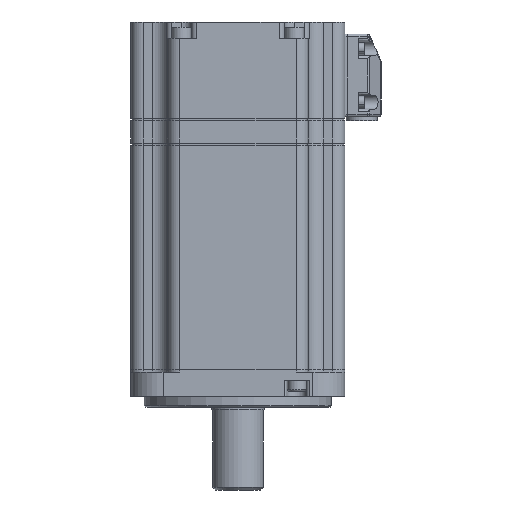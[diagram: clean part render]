
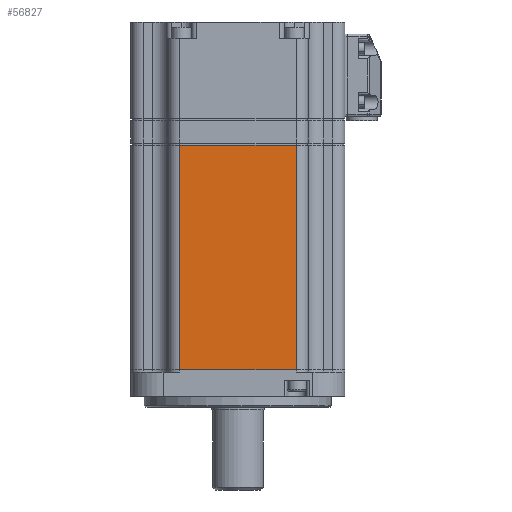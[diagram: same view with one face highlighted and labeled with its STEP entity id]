
A CAD part, front view. The second image highlights one B-rep face of the part: STEP entity #56827.
In plain terms, the highlighted planar face has unit normal (0, -1, 0).
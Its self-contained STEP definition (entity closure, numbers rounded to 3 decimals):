
#1600 = CARTESIAN_POINT ( 'NONE',  ( -21.75, -40., 93.9 ) ) ;
#3547 = DIRECTION ( 'NONE',  ( 1., 0., 0. ) ) ;
#3734 = VECTOR ( 'NONE', #16309, 1000. ) ;
#6341 = CARTESIAN_POINT ( 'NONE',  ( -26.25, -40., 93.9 ) ) ;
#6700 = EDGE_CURVE ( 'NONE', #16134, #44769, #45348, .T. ) ;
#6907 = VERTEX_POINT ( 'NONE', #33629 ) ;
#8594 = FACE_OUTER_BOUND ( 'NONE', #31881, .T. ) ;
#9262 = VECTOR ( 'NONE', #13877, 1000. ) ;
#11360 = DIRECTION ( 'NONE',  ( 0., 1., 0. ) ) ;
#11363 = ORIENTED_EDGE ( 'NONE', *, *, #52443, .F. ) ;
#13877 = DIRECTION ( 'NONE',  ( 0., 0., 1. ) ) ;
#16134 = VERTEX_POINT ( 'NONE', #18750 ) ;
#16145 = EDGE_CURVE ( 'NONE', #47041, #6907, #62684, .T. ) ;
#16309 = DIRECTION ( 'NONE',  ( 1., 0., 0. ) ) ;
#17033 = AXIS2_PLACEMENT_3D ( 'NONE', #6341, #11360, #46486 ) ;
#18750 = CARTESIAN_POINT ( 'NONE',  ( -21.75, -40., 93.9 ) ) ;
#21220 = CARTESIAN_POINT ( 'NONE',  ( 21.75, -40., 10. ) ) ;
#22029 = ORIENTED_EDGE ( 'NONE', *, *, #6700, .T. ) ;
#22368 = CARTESIAN_POINT ( 'NONE',  ( -21.75, -40., 10. ) ) ;
#31812 = EDGE_CURVE ( 'NONE', #44769, #47041, #61254, .T. ) ;
#31881 = EDGE_LOOP ( 'NONE', ( #11363, #22029, #41256, #63603 ) ) ;
#31928 = DIRECTION ( 'NONE',  ( 0., 0., -1. ) ) ;
#32047 = VECTOR ( 'NONE', #31928, 1000. ) ;
#33629 = CARTESIAN_POINT ( 'NONE',  ( 21.75, -40., 93.9 ) ) ;
#36433 = PLANE ( 'NONE',  #17033 ) ;
#38708 = CARTESIAN_POINT ( 'NONE',  ( -26.25, -40., 10. ) ) ;
#41256 = ORIENTED_EDGE ( 'NONE', *, *, #31812, .T. ) ;
#41286 = CARTESIAN_POINT ( 'NONE',  ( -26.25, -40., 93.9 ) ) ;
#44769 = VERTEX_POINT ( 'NONE', #22368 ) ;
#45348 = LINE ( 'NONE', #1600, #32047 ) ;
#46486 = DIRECTION ( 'NONE',  ( -1., 0., 0. ) ) ;
#47041 = VERTEX_POINT ( 'NONE', #21220 ) ;
#47896 = VECTOR ( 'NONE', #3547, 1000. ) ;
#52443 = EDGE_CURVE ( 'NONE', #16134, #6907, #57162, .T. ) ;
#56827 = ADVANCED_FACE ( 'NONE', ( #8594 ), #36433, .F. ) ;
#57162 = LINE ( 'NONE', #41286, #3734 ) ;
#61254 = LINE ( 'NONE', #38708, #47896 ) ;
#62684 = LINE ( 'NONE', #63910, #9262 ) ;
#63603 = ORIENTED_EDGE ( 'NONE', *, *, #16145, .T. ) ;
#63910 = CARTESIAN_POINT ( 'NONE',  ( 21.75, -40., 93.9 ) ) ;
